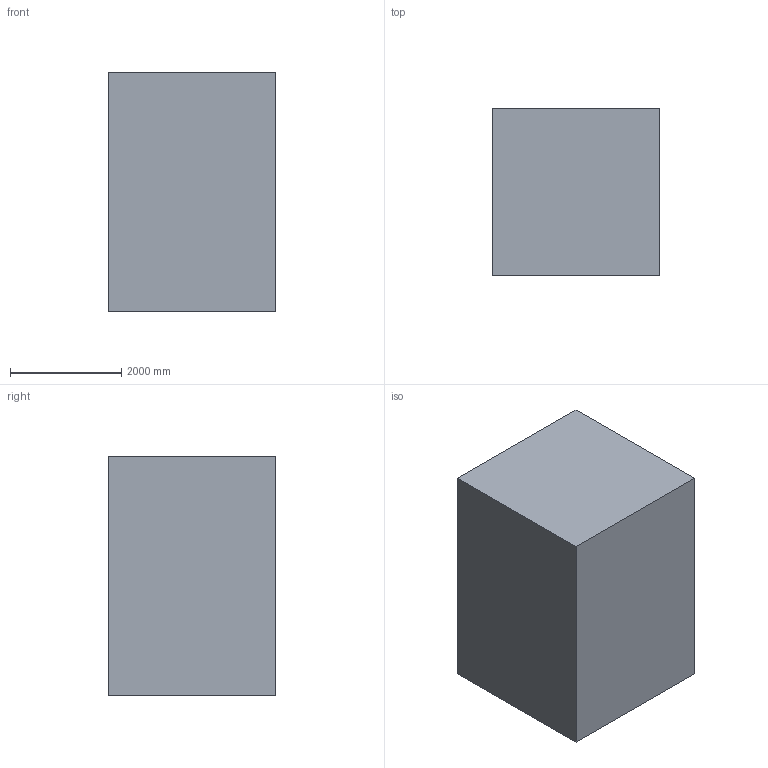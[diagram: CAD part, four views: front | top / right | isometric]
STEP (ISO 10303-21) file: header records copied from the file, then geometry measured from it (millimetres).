
FILE_DESCRIPTION(/* description */ (''),/* implementation_level */ '2;1');
FILE_NAME(/* name */ 'FullyGrated.step',/* time_stamp */ '2024-09-30T16:03:21-07:00',/* author */ (''),/* organization */ (''),/* preprocessor_version */ 'ST-DEVELOPER v20',/* originating_system */ 'Autodesk Translation Framework v13.20.0.188',/* authorisation */ '');
FILE_SCHEMA (('AUTOMOTIVE_DESIGN { 1 0 10303 214 3 1 1 }'));
Products named in the file (26): CFDGrated; CFDBracket; BracketCFD v2; BracketCFD v2 (1); BracketCFD v2_1; Component25; Component26; BracketCFD v2 (1)_1; Component28; Component29; Jig3CFD Simplified v1; FanModel v1; InnerFan; Solids; FanModel v1 (1); InnerFan (1); FanModel v1 (2); InnerFan (2); FanModel v1 (3); InnerFan (3); Bot3JigCFD2; FanModel v1_1; AttachPlates; FanModel v1_2; InnerFan_1; Domain
Assembly tree (30 placements, depth 4):
  CFDGrated
    CFDBracket
    BracketCFD v2
      Component25
      Component26
    BracketCFD v2 (1)
      Component28
      Component29
    BracketCFD v2_1
      Component25
      Component26
    BracketCFD v2 (1)_1
      Component28
      Component29
    Jig3CFD Simplified v1
      FanModel v1
        InnerFan
      Solids
      FanModel v1 (1)
        InnerFan (1)
      FanModel v1 (2)
        InnerFan (2)
      FanModel v1 (3)
        InnerFan (3)
    Bot3JigCFD2
      FanModel v1_1
        InnerFan_1
      AttachPlates
      FanModel v1_2
        InnerFan_1
    Domain
Bounding box: 3000 x 3000 x 4300 mm (x, y, z)
Volume: 38712688793.4 mm3; surface area: 71827723.3 mm2
Topology: 26 solids, 26 shells, 2524 faces, 7416 edges, 4946 vertices
Faces by surface type: plane 2488, cylinder 36
Full cylindrical faces by diameter (mm): 30 x12, 77.3 x4, 77.5 x12, 80 x2
Entity records: 84469 total; most frequent: CARTESIAN_POINT 14804, ORIENTED_EDGE 14700, DIRECTION 12518, EDGE_CURVE 7350, LINE 7286, VECTOR 7286, VERTEX_POINT 4902, EDGE_LOOP 3682
